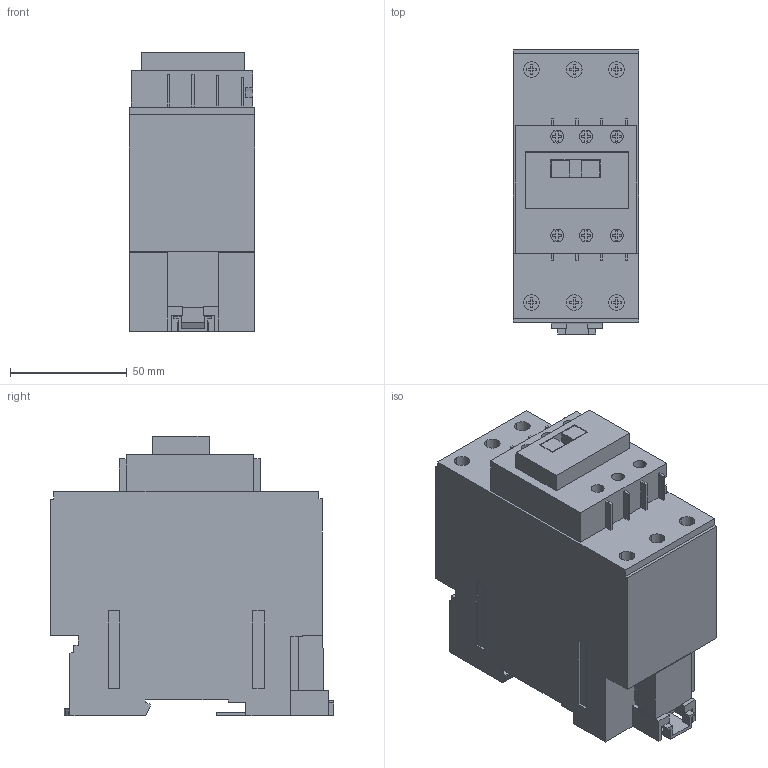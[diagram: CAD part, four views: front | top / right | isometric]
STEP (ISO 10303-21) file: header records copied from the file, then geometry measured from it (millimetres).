
FILE_DESCRIPTION(('STEP AP214'),'1');
FILE_NAME('lc1d50abd.stp','2019-07-16T14:40:46',('TraceParts'),('TraceParts S.A.'),'Spatial InterOp 3D',' ',' ');
FILE_SCHEMA(('AUTOMOTIVE_DESIGN { 1 0 10303 214 1 1 1 1 }'));
Length unit declared in the file: millimetre
Products named in the file (1): lc1d50abd_1
Bounding box: 54 x 121.7 x 119.9 mm (x, y, z)
Volume: 601034.5 mm3; surface area: 58020.9 mm2
Topology: 4 solids, 4 shells, 429 faces, 1159 edges, 770 vertices
Faces by surface type: plane 397, cylinder 31, extrusion 1
Entity records: 13281 total; most frequent: CARTESIAN_POINT 2385, ORIENTED_EDGE 2318, DIRECTION 2084, EDGE_CURVE 1159, VECTOR 1096, LINE 1095, VERTEX_POINT 770, AXIS2_PLACEMENT_3D 494
